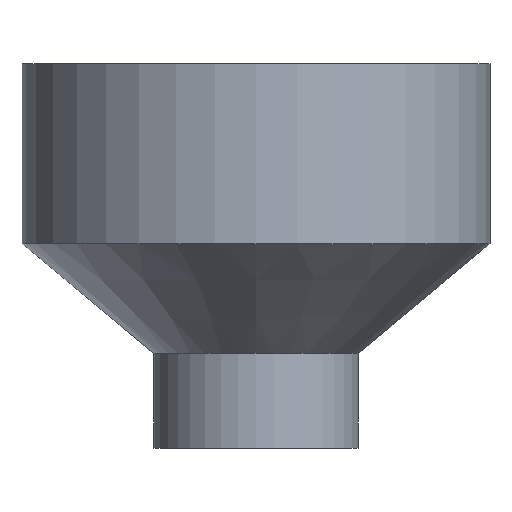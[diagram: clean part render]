
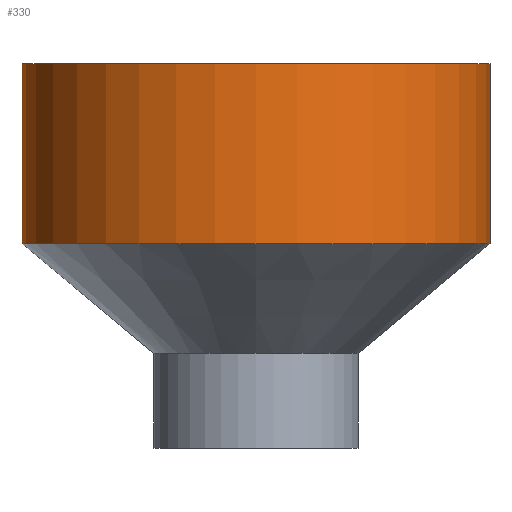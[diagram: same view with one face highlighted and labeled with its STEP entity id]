
A CAD part, front view. The second image highlights one B-rep face of the part: STEP entity #330.
In plain terms, the highlighted cylindrical face has radius 49.4 mm (diameter 98.8 mm), a partial arc.
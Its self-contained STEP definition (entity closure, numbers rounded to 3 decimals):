
#1 = EDGE_CURVE ( 'NONE', #129, #294, #295, .T. ) ;
#9 = DIRECTION ( 'NONE',  ( 0., 0., -1. ) ) ;
#33 = EDGE_CURVE ( 'NONE', #518, #86, #514, .T. ) ;
#86 = VERTEX_POINT ( 'NONE', #219 ) ;
#93 = CARTESIAN_POINT ( 'NONE',  ( 0., 0., 81.15 ) ) ;
#128 = CARTESIAN_POINT ( 'NONE',  ( 49.4, 0., 81.15 ) ) ;
#129 = VERTEX_POINT ( 'NONE', #254 ) ;
#147 = AXIS2_PLACEMENT_3D ( 'NONE', #496, #380, #420 ) ;
#172 = CARTESIAN_POINT ( 'NONE',  ( 49.4, 0., 43.15 ) ) ;
#197 = FACE_OUTER_BOUND ( 'NONE', #367, .T. ) ;
#203 = CYLINDRICAL_SURFACE ( 'NONE', #506, 49.4 ) ;
#219 = CARTESIAN_POINT ( 'NONE',  ( -49.4, 0., 43.15 ) ) ;
#230 = ORIENTED_EDGE ( 'NONE', *, *, #1, .F. ) ;
#242 = AXIS2_PLACEMENT_3D ( 'NONE', #93, #336, #485 ) ;
#249 = EDGE_CURVE ( 'NONE', #294, #518, #475, .T. ) ;
#254 = CARTESIAN_POINT ( 'NONE',  ( -49.4, 0., 81.15 ) ) ;
#260 = CARTESIAN_POINT ( 'NONE',  ( -49.4, 0., 81.15 ) ) ;
#262 = VECTOR ( 'NONE', #9, 1000. ) ;
#279 = VECTOR ( 'NONE', #397, 1000. ) ;
#294 = VERTEX_POINT ( 'NONE', #128 ) ;
#295 = CIRCLE ( 'NONE', #242, 49.4 ) ;
#330 = ADVANCED_FACE ( 'NONE', ( #197 ), #203, .T. ) ;
#336 = DIRECTION ( 'NONE',  ( 0., 0., 1. ) ) ;
#366 = CARTESIAN_POINT ( 'NONE',  ( 0., 0., 81.15 ) ) ;
#367 = EDGE_LOOP ( 'NONE', ( #521, #230, #483, #428 ) ) ;
#380 = DIRECTION ( 'NONE',  ( 0., 0., -1. ) ) ;
#397 = DIRECTION ( 'NONE',  ( 0., 0., -1. ) ) ;
#401 = CARTESIAN_POINT ( 'NONE',  ( 49.4, 0., 81.15 ) ) ;
#420 = DIRECTION ( 'NONE',  ( -1., 0., 0. ) ) ;
#428 = ORIENTED_EDGE ( 'NONE', *, *, #33, .F. ) ;
#475 = LINE ( 'NONE', #401, #279 ) ;
#483 = ORIENTED_EDGE ( 'NONE', *, *, #493, .T. ) ;
#484 = LINE ( 'NONE', #260, #262 ) ;
#485 = DIRECTION ( 'NONE',  ( 1., 0., 0. ) ) ;
#493 = EDGE_CURVE ( 'NONE', #129, #86, #484, .T. ) ;
#496 = CARTESIAN_POINT ( 'NONE',  ( 0., 0., 43.15 ) ) ;
#506 = AXIS2_PLACEMENT_3D ( 'NONE', #366, #517, #522 ) ;
#514 = CIRCLE ( 'NONE', #147, 49.4 ) ;
#517 = DIRECTION ( 'NONE',  ( 0., 0., -1. ) ) ;
#518 = VERTEX_POINT ( 'NONE', #172 ) ;
#521 = ORIENTED_EDGE ( 'NONE', *, *, #249, .F. ) ;
#522 = DIRECTION ( 'NONE',  ( -1., 0., 0. ) ) ;
